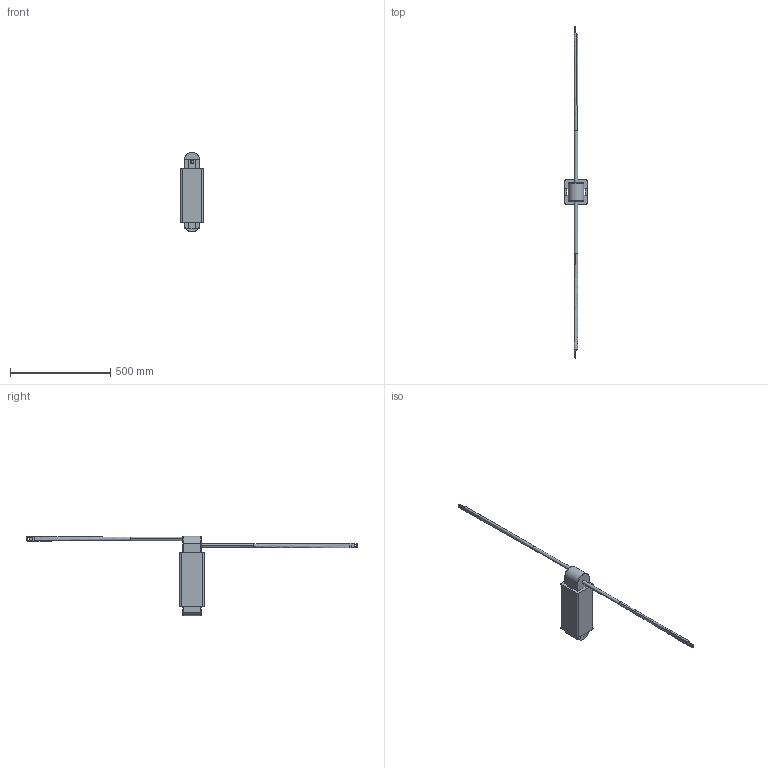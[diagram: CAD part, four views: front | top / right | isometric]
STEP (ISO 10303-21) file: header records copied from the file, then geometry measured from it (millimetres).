
FILE_DESCRIPTION (( 'STEP AP214' ), '1' );
FILE_NAME ('CWS-1EE-12721.STEP', '2020-07-30T19:52:31', ( '' ), ( '' ), 'SwSTEP 2.0', 'SolidWorks 2015', '' );
FILE_SCHEMA (( 'AUTOMOTIVE_DESIGN' ));
Length unit declared in the file: inch
Products named in the file (1): CWS-1EE-12721
Bounding box: 114.79 x 1656.08 x 396.81 mm (x, y, z)
Surface area: 458980.6 mm2 (no closed solid volume)
Topology: 0 solids, 19 shells, 86 faces, 344 edges, 276 vertices
Faces by surface type: plane 56, cylinder 22, bspline 8
Entity records: 6397 total; most frequent: CARTESIAN_POINT 2487, DIRECTION 530, ORIENTED_EDGE 502, EDGE_CURVE 344, VERTEX_POINT 276, LINE 232, VECTOR 232, AXIS2_PLACEMENT_3D 149
